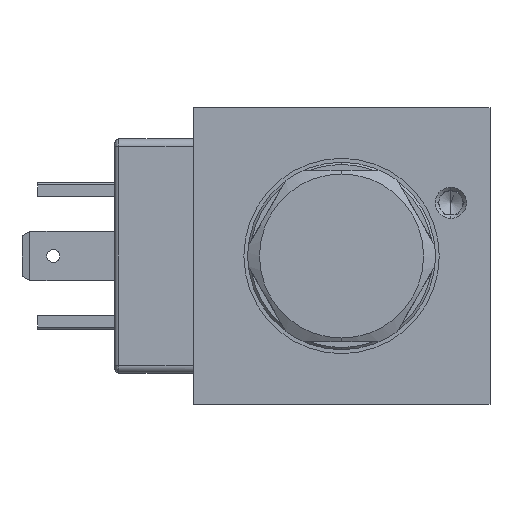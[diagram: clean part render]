
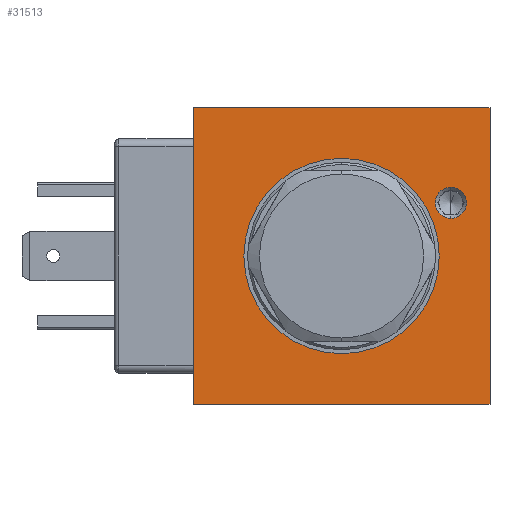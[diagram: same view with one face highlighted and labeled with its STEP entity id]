
A CAD part, left-side view. The second image highlights one B-rep face of the part: STEP entity #31513.
In plain terms, the highlighted planar face has unit normal (-1, 0, 0).
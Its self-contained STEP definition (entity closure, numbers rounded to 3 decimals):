
#8 = DIRECTION ( 'NONE',  ( 0., -1., 0. ) ) ;
#79 = DIRECTION ( 'NONE',  ( -1., 0., 0. ) ) ;
#136 = CARTESIAN_POINT ( 'NONE',  ( 0., 0., 0. ) ) ;
#1210 = VERTEX_POINT ( 'NONE', #52836 ) ;
#1971 = PLANE ( 'NONE',  #19031 ) ;
#2640 = DIRECTION ( 'NONE',  ( 0., 1., 0. ) ) ;
#4092 = ORIENTED_EDGE ( 'NONE', *, *, #32473, .F. ) ;
#4153 = DIRECTION ( 'NONE',  ( 1., 0., 0. ) ) ;
#6072 = ORIENTED_EDGE ( 'NONE', *, *, #28660, .T. ) ;
#7099 = VERTEX_POINT ( 'NONE', #30415 ) ;
#7480 = CARTESIAN_POINT ( 'NONE',  ( 0., -19.707, 19. ) ) ;
#8968 = AXIS2_PLACEMENT_3D ( 'NONE', #31243, #4153, #35960 ) ;
#10909 = FACE_BOUND ( 'NONE', #44252, .T. ) ;
#11590 = CARTESIAN_POINT ( 'NONE',  ( 0., -14., 8.8 ) ) ;
#11997 = ORIENTED_EDGE ( 'NONE', *, *, #51277, .T. ) ;
#13678 = CARTESIAN_POINT ( 'NONE',  ( 0., -12.5, 0. ) ) ;
#13698 = CARTESIAN_POINT ( 'NONE',  ( 0., -19., -19.707 ) ) ;
#14872 = ORIENTED_EDGE ( 'NONE', *, *, #35722, .T. ) ;
#14946 = VECTOR ( 'NONE', #20937, 1000. ) ;
#16161 = CARTESIAN_POINT ( 'NONE',  ( 0., -14., 4.8 ) ) ;
#16356 = LINE ( 'NONE', #43975, #14946 ) ;
#16419 = ORIENTED_EDGE ( 'NONE', *, *, #38812, .F. ) ;
#16676 = ORIENTED_EDGE ( 'NONE', *, *, #45080, .F. ) ;
#18150 = AXIS2_PLACEMENT_3D ( 'NONE', #25021, #57526, #29632 ) ;
#18705 = CIRCLE ( 'NONE', #18150, 2. ) ;
#19031 = AXIS2_PLACEMENT_3D ( 'NONE', #20025, #52380, #24559 ) ;
#19207 = VECTOR ( 'NONE', #2640, 1000. ) ;
#20025 = CARTESIAN_POINT ( 'NONE',  ( 0., -19., 19. ) ) ;
#20937 = DIRECTION ( 'NONE',  ( 0., 0., 1. ) ) ;
#20995 = VECTOR ( 'NONE', #45847, 1000. ) ;
#21541 = DIRECTION ( 'NONE',  ( -1., 0., 0. ) ) ;
#22020 = CARTESIAN_POINT ( 'NONE',  ( 0., -19., -19. ) ) ;
#23519 = VERTEX_POINT ( 'NONE', #26769 ) ;
#24295 = FACE_OUTER_BOUND ( 'NONE', #24911, .T. ) ;
#24559 = DIRECTION ( 'NONE',  ( 0., 0., -1. ) ) ;
#24911 = EDGE_LOOP ( 'NONE', ( #39838, #14872, #4092, #16419 ) ) ;
#25021 = CARTESIAN_POINT ( 'NONE',  ( 0., -14., 6.8 ) ) ;
#25079 = CARTESIAN_POINT ( 'NONE',  ( 0., -19.707, -19. ) ) ;
#26769 = CARTESIAN_POINT ( 'NONE',  ( 0., 12.5, 0. ) ) ;
#26784 = EDGE_CURVE ( 'NONE', #23519, #38605, #34943, .T. ) ;
#26796 = CIRCLE ( 'NONE', #8968, 2. ) ;
#28470 = CIRCLE ( 'NONE', #55936, 12.5 ) ;
#28660 = EDGE_CURVE ( 'NONE', #43085, #38319, #26796, .T. ) ;
#29447 = EDGE_CURVE ( 'NONE', #47776, #1210, #45585, .T. ) ;
#29632 = DIRECTION ( 'NONE',  ( 0., 0., -1. ) ) ;
#30415 = CARTESIAN_POINT ( 'NONE',  ( 0., 19., 19. ) ) ;
#31243 = CARTESIAN_POINT ( 'NONE',  ( 0., -14., 6.8 ) ) ;
#31513 = ADVANCED_FACE ( 'NONE', ( #24295, #47507, #10909 ), #1971, .F. ) ;
#32473 = EDGE_CURVE ( 'NONE', #53663, #7099, #16356, .T. ) ;
#34943 = CIRCLE ( 'NONE', #49648, 12.5 ) ;
#35722 = EDGE_CURVE ( 'NONE', #1210, #7099, #45659, .T. ) ;
#35960 = DIRECTION ( 'NONE',  ( 0., 0., -1. ) ) ;
#37284 = ORIENTED_EDGE ( 'NONE', *, *, #26784, .F. ) ;
#38319 = VERTEX_POINT ( 'NONE', #16161 ) ;
#38605 = VERTEX_POINT ( 'NONE', #13678 ) ;
#38812 = EDGE_CURVE ( 'NONE', #47776, #53663, #45218, .T. ) ;
#39838 = ORIENTED_EDGE ( 'NONE', *, *, #29447, .T. ) ;
#43085 = VERTEX_POINT ( 'NONE', #11590 ) ;
#43975 = CARTESIAN_POINT ( 'NONE',  ( 0., 19., -19.707 ) ) ;
#43976 = EDGE_LOOP ( 'NONE', ( #16676, #37284 ) ) ;
#44252 = EDGE_LOOP ( 'NONE', ( #6072, #11997 ) ) ;
#44952 = CARTESIAN_POINT ( 'NONE',  ( 0., 19., -19. ) ) ;
#45080 = EDGE_CURVE ( 'NONE', #38605, #23519, #28470, .T. ) ;
#45218 = LINE ( 'NONE', #25079, #19207 ) ;
#45585 = LINE ( 'NONE', #13698, #20995 ) ;
#45659 = LINE ( 'NONE', #7480, #56550 ) ;
#45847 = DIRECTION ( 'NONE',  ( 0., 0., 1. ) ) ;
#47507 = FACE_BOUND ( 'NONE', #43976, .T. ) ;
#47776 = VERTEX_POINT ( 'NONE', #22020 ) ;
#49270 = CARTESIAN_POINT ( 'NONE',  ( 0., 0., 0. ) ) ;
#49648 = AXIS2_PLACEMENT_3D ( 'NONE', #136, #79, #8 ) ;
#51277 = EDGE_CURVE ( 'NONE', #38319, #43085, #18705, .T. ) ;
#52380 = DIRECTION ( 'NONE',  ( 1., 0., 0. ) ) ;
#52836 = CARTESIAN_POINT ( 'NONE',  ( 0., -19., 19. ) ) ;
#53440 = DIRECTION ( 'NONE',  ( 0., 1., 0. ) ) ;
#53663 = VERTEX_POINT ( 'NONE', #44952 ) ;
#53963 = DIRECTION ( 'NONE',  ( 0., -1., 0. ) ) ;
#55936 = AXIS2_PLACEMENT_3D ( 'NONE', #49270, #21541, #53963 ) ;
#56550 = VECTOR ( 'NONE', #53440, 1000. ) ;
#57526 = DIRECTION ( 'NONE',  ( 1., 0., 0. ) ) ;
